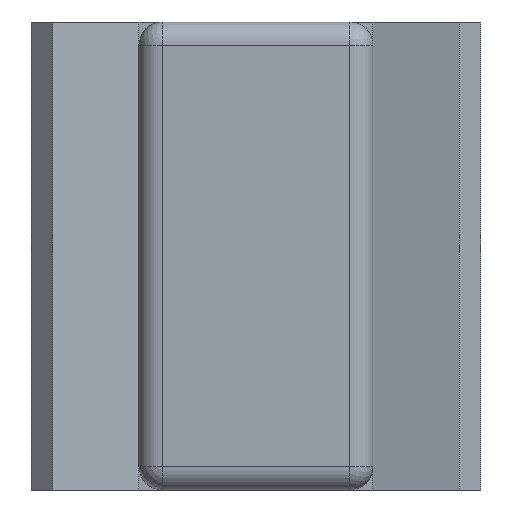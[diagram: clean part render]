
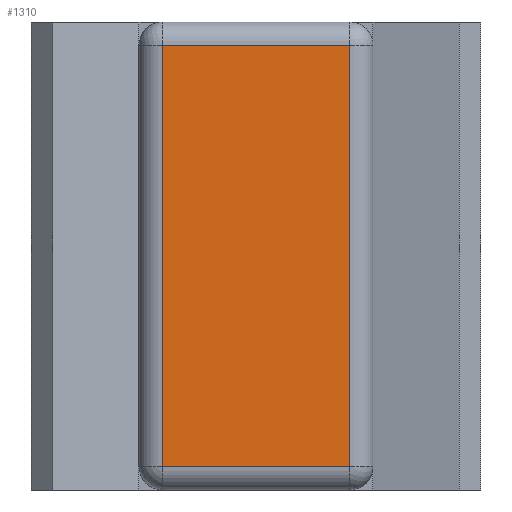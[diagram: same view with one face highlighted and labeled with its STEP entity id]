
A CAD part, left-side view. The second image highlights one B-rep face of the part: STEP entity #1310.
In plain terms, the highlighted planar face has unit normal (-1, 0, 0).
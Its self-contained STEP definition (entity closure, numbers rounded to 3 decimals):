
#20=PLANE('',#1404);
#74=LINE('',#1902,#234);
#76=LINE('',#1905,#236);
#77=LINE('',#1907,#237);
#83=LINE('',#1922,#243);
#234=VECTOR('',#1530,10.);
#236=VECTOR('',#1534,10.);
#237=VECTOR('',#1537,10.);
#243=VECTOR('',#1553,10.);
#420=FACE_OUTER_BOUND('',#496,.T.);
#496=EDGE_LOOP('',(#997,#998,#999,#1000));
#592=VERTEX_POINT('',#1862);
#596=VERTEX_POINT('',#1874);
#601=VERTEX_POINT('',#1884);
#603=VERTEX_POINT('',#1889);
#730=EDGE_CURVE('',#596,#603,#74,.T.);
#732=EDGE_CURVE('',#603,#601,#76,.T.);
#733=EDGE_CURVE('',#601,#592,#77,.T.);
#741=EDGE_CURVE('',#592,#596,#83,.T.);
#997=ORIENTED_EDGE('',*,*,#730,.F.);
#998=ORIENTED_EDGE('',*,*,#741,.F.);
#999=ORIENTED_EDGE('',*,*,#733,.F.);
#1000=ORIENTED_EDGE('',*,*,#732,.F.);
#1310=ADVANCED_FACE('',(#420),#20,.T.);
#1404=AXIS2_PLACEMENT_3D('',#2004,#1601,#1602);
#1530=DIRECTION('',(0.,0.,1.));
#1534=DIRECTION('',(0.,-1.,0.));
#1537=DIRECTION('',(0.,0.,-1.));
#1553=DIRECTION('',(0.,1.,0.));
#1601=DIRECTION('center_axis',(-1.,0.,0.));
#1602=DIRECTION('ref_axis',(0.,0.,1.));
#1862=CARTESIAN_POINT('',(-5.,-4.5,0.5));
#1874=CARTESIAN_POINT('',(-5.,-0.5,0.5));
#1884=CARTESIAN_POINT('',(-5.,-4.5,9.5));
#1889=CARTESIAN_POINT('',(-5.,-0.5,9.5));
#1902=CARTESIAN_POINT('',(-5.,-0.5,5.));
#1905=CARTESIAN_POINT('',(-5.,-3.076,9.5));
#1907=CARTESIAN_POINT('',(-5.,-4.5,5.));
#1922=CARTESIAN_POINT('',(-5.,-3.076,0.5));
#2004=CARTESIAN_POINT('Origin',(-5.,-1.5,10.));
